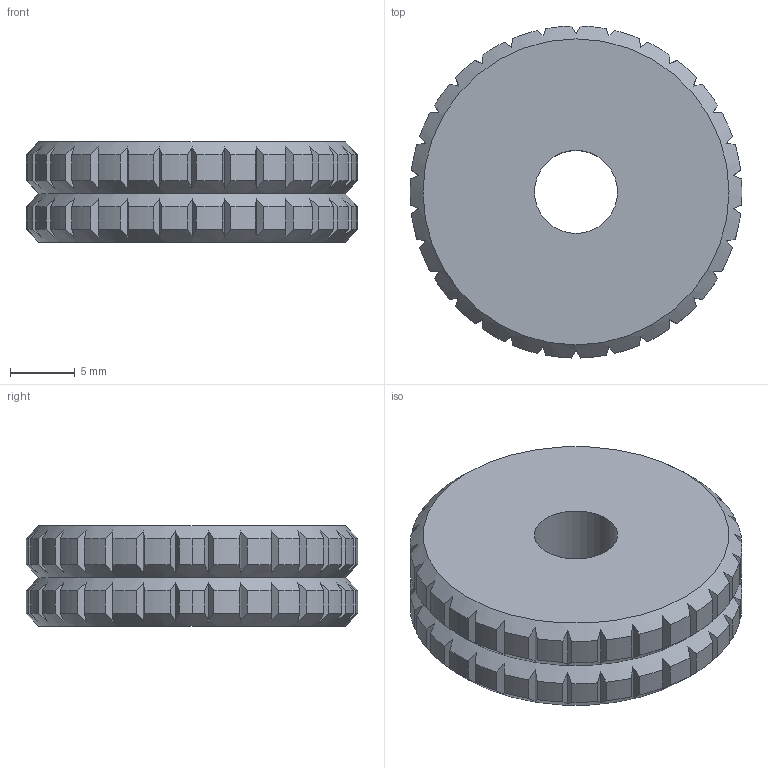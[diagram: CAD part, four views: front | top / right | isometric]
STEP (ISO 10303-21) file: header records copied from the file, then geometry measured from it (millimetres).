
FILE_DESCRIPTION(('HOOPS Exchange Step'),'2;1');
FILE_NAME('/private/var/mobile/Containers/Data/Application/4B1A7BF2-BF60-4167-B720-BE744F57E5F5/tmp/export/temp_export','2026-08-15T11:32:54-05:00',('mobile'),('Shapr3D Limited'),'HOOPS Exchange 2026.3','Shapr3D','Authorized');
FILE_SCHEMA( ('AP242_MANAGED_MODEL_BASED_3D_ENGINEERING_MIM_LF {1 0 10303 442 1 1 4}') );
Length unit declared in the file: millimetre
Products named in the file (2): Wheel.step; root
Assembly tree (1 placements, depth 2):
  root
    Wheel.step
Bounding box: 25.6 x 25.59 x 7.75 mm (x, y, z)
Volume: 3555.1 mm3; surface area: 1796.1 mm2
Topology: 1 solids, 1 shells, 189 faces, 679 edges, 492 vertices
Faces by surface type: plane 122, cylinder 63, cone 4
Full cylindrical faces by diameter (mm): 6.403 x1
Entity records: 7814 total; most frequent: CARTESIAN_POINT 2444, ORIENTED_EDGE 1358, DIRECTION 837, EDGE_CURVE 679, VERTEX_POINT 492, B_SPLINE_CURVE_WITH_KNOTS 360, AXIS2_PLACEMENT_3D 325, EDGE_LOOP 191
